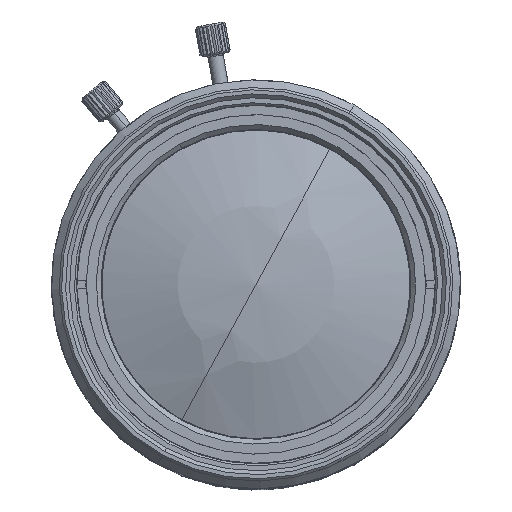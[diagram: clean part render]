
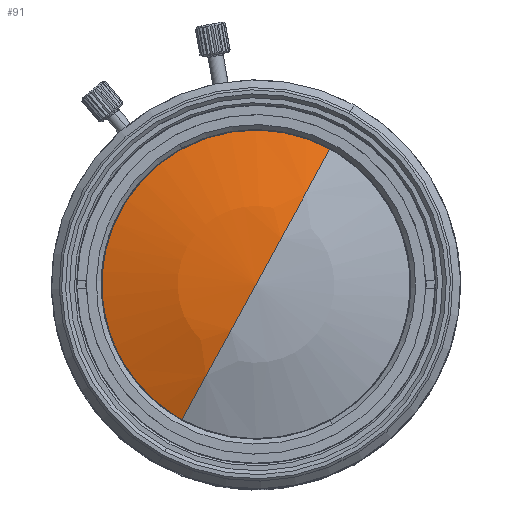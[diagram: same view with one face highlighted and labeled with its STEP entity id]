
A CAD part, top view. The second image highlights one B-rep face of the part: STEP entity #91.
In plain terms, the highlighted spherical face has radius 57.068 mm.
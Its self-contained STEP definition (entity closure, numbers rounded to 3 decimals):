
#52=CARTESIAN_POINT('Axis2P3D Location',(0.,0.,52.697)) ;
#57=CARTESIAN_POINT('Axis2P3D Location',(0.,0.,52.697)) ;
#61=CARTESIAN_POINT('Vertex',(-9.589,-17.552,106.146)) ;
#63=CARTESIAN_POINT('Vertex',(0.,0.,109.765)) ;
#66=CARTESIAN_POINT('Axis2P3D Location',(0.,0.,52.697)) ;
#70=CARTESIAN_POINT('Vertex',(9.589,17.552,106.146)) ;
#73=CARTESIAN_POINT('Axis2P3D Location',(0.,0.,106.146)) ;
#77=CARTESIAN_POINT('Vertex',(-9.589,17.552,106.146)) ;
#80=CARTESIAN_POINT('Axis2P3D Location',(0.,0.,106.146)) ;
#53=DIRECTION('Axis2P3D Direction',(0.,0.,-1.)) ;
#54=DIRECTION('Axis2P3D XDirection',(0.479,0.878,0.)) ;
#58=DIRECTION('Axis2P3D Direction',(0.878,-0.479,0.)) ;
#67=DIRECTION('Axis2P3D Direction',(-0.878,0.479,0.)) ;
#74=DIRECTION('Axis2P3D Direction',(0.,0.,-1.)) ;
#81=DIRECTION('Axis2P3D Direction',(0.,0.,-1.)) ;
#55=AXIS2_PLACEMENT_3D('Sphere Axis2P3D',#52,#53,#54) ;
#59=AXIS2_PLACEMENT_3D('Circle Axis2P3D',#57,#58,$) ;
#68=AXIS2_PLACEMENT_3D('Circle Axis2P3D',#66,#67,$) ;
#75=AXIS2_PLACEMENT_3D('Circle Axis2P3D',#73,#74,$) ;
#82=AXIS2_PLACEMENT_3D('Circle Axis2P3D',#80,#81,$) ;
#86=ORIENTED_EDGE('',*,*,#65,.T.) ;
#87=ORIENTED_EDGE('',*,*,#72,.F.) ;
#88=ORIENTED_EDGE('',*,*,#79,.T.) ;
#89=ORIENTED_EDGE('',*,*,#84,.F.) ;
#91=ADVANCED_FACE('\X2\FF8AFF9FFF70FF82\X0\ \X2\FF8EFF9EFF83FF9EFF68FF70\X0\',(#90),#56,.T.) ;
#60=CIRCLE('generated circle',#59,57.068) ;
#69=CIRCLE('generated circle',#68,57.068) ;
#76=CIRCLE('generated circle',#75,20.) ;
#83=CIRCLE('generated circle',#82,20.) ;
#65=EDGE_CURVE('',#62,#64,#60,.F.) ;
#72=EDGE_CURVE('',#71,#64,#69,.F.) ;
#79=EDGE_CURVE('',#71,#78,#76,.F.) ;
#84=EDGE_CURVE('',#62,#78,#83,.T.) ;
#85=EDGE_LOOP('',(#86,#87,#88,#89)) ;
#90=FACE_OUTER_BOUND('',#85,.T.) ;
#56=SPHERICAL_SURFACE('',#55,57.068) ;
#62=VERTEX_POINT('',#61) ;
#64=VERTEX_POINT('',#63) ;
#71=VERTEX_POINT('',#70) ;
#78=VERTEX_POINT('',#77) ;
